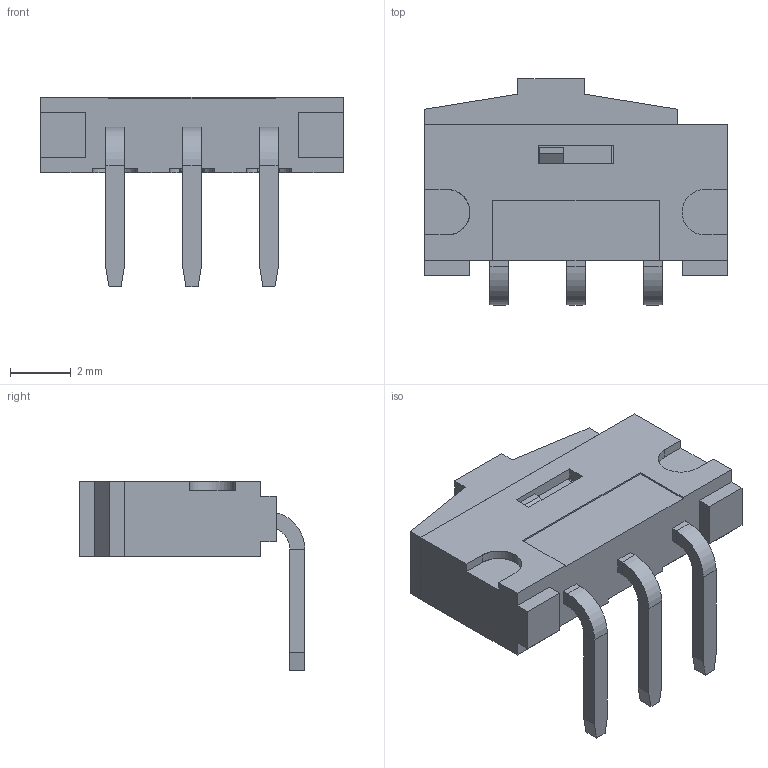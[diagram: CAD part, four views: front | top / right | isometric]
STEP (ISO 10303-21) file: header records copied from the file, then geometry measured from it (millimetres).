
FILE_DESCRIPTION((''),'2;1');
FILE_NAME('MMP_1010_D-RA_ASM','2020-12-09T',('a14095'),(''),'CREO PARAMETRIC BY PTC INC, 2017300','CREO PARAMETRIC BY PTC INC, 2017300','');
FILE_SCHEMA(('CONFIG_CONTROL_DESIGN'));
Length unit declared in the file: millimetre
Products named in the file (6): MMP_1010_D-RA_1_1; MMP_1010_D-RA_1_2; MMP_1010_D-RA_1_3; MMP_1010_D-RA_1_4; MMP_1010_D-RA_1_ASM; MMP_1010_D-RA_ASM
Assembly tree (5 placements, depth 3):
  MMP_1010_D-RA_ASM
    MMP_1010_D-RA_1_ASM
      MMP_1010_D-RA_1_1
      MMP_1010_D-RA_1_2
      MMP_1010_D-RA_1_3
      MMP_1010_D-RA_1_4
Bounding box: 10 x 7.45 x 6.26 mm (x, y, z)
Surface area: 416.3 mm2 (no closed solid volume)
Topology: 0 solids, 6 shells, 439 faces, 1234 edges, 808 vertices
Faces by surface type: plane 382, cylinder 57
Entity records: 14340 total; most frequent: CARTESIAN_POINT 2837, ORIENTED_EDGE 2410, DIRECTION 2218, EDGE_CURVE 1234, VECTOR 1072, LINE 1072, VERTEX_POINT 808, AXIS2_PLACEMENT_3D 573
